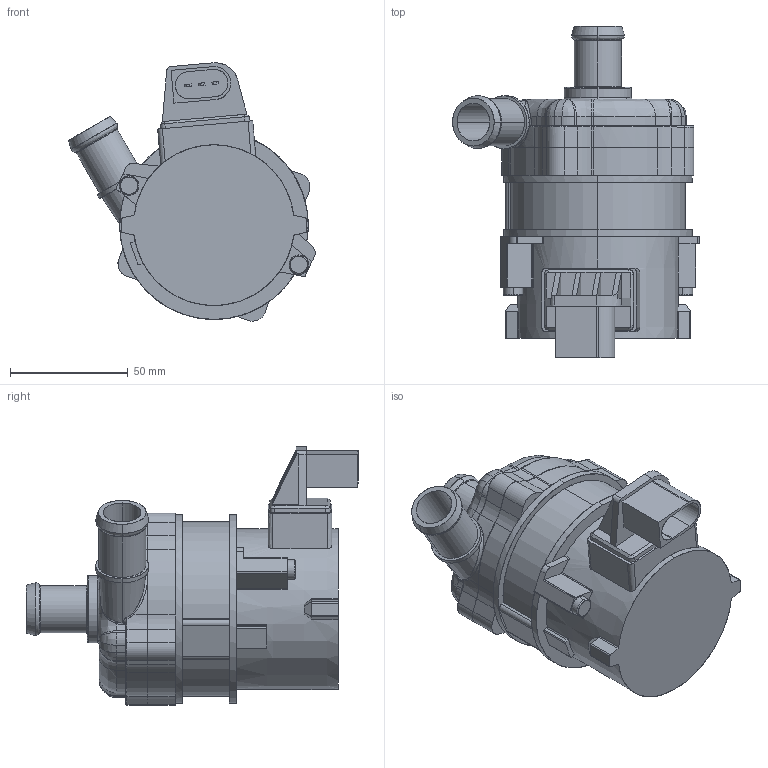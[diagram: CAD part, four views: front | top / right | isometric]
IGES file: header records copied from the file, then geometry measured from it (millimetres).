
Start section: Tecomotive IGES file using analytic representation for surfaces
Global section: file name:                                                                                                                                                             ; native system: Tecomotive 2020; preprocessor: Tecomotive 2020; author:          ; date: 201229.155659; units: millimetre
Bounding box: 104.7 x 140.9 x 109.63 mm (x, y, z)
Surface area: 51970.8 mm2 (no closed solid volume)
Topology: 0 solids, 0 shells, 417 faces, 4420 edges, 4409 vertices
Faces by surface type: bspline 232, revolution 185
